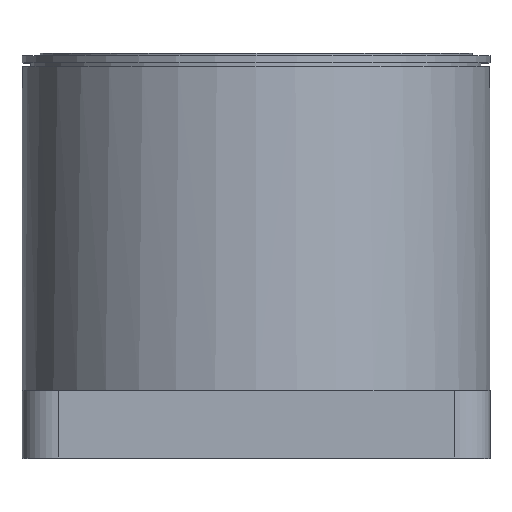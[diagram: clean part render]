
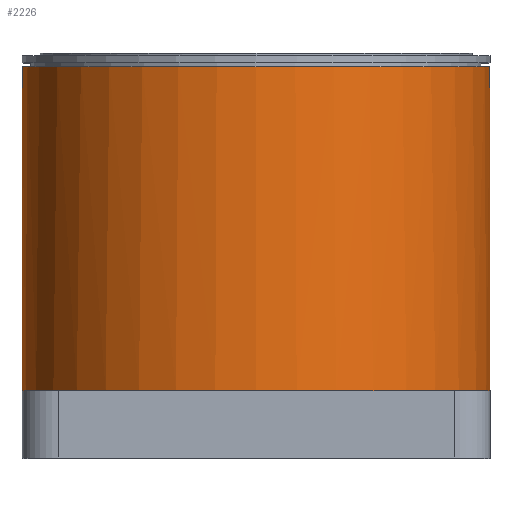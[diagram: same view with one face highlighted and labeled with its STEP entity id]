
A CAD part, top view. The second image highlights one B-rep face of the part: STEP entity #2226.
In plain terms, the highlighted cylindrical face has radius 52 mm (diameter 104 mm), a partial arc.
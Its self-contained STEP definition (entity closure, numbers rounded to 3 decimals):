
#339=FACE_OUTER_BOUND('',#525,.T.);
#525=EDGE_LOOP('',(#1877,#1878,#1879,#1880,#1881,#1882,#1883));
#724=LINE('',#3773,#835);
#734=LINE('',#3817,#845);
#835=VECTOR('',#2944,72.);
#845=VECTOR('',#2996,72.);
#937=CIRCLE('',#2440,52.);
#940=CIRCLE('',#2444,52.);
#942=CIRCLE('',#2452,52.);
#945=CIRCLE('',#2456,52.);
#946=CIRCLE('',#2462,52.);
#1146=VERTEX_POINT('',#3770);
#1147=VERTEX_POINT('',#3772);
#1154=VERTEX_POINT('',#3792);
#1155=VERTEX_POINT('',#3794);
#1158=VERTEX_POINT('',#3801);
#1160=VERTEX_POINT('',#3816);
#1161=VERTEX_POINT('',#3820);
#1393=EDGE_CURVE('',#1146,#1147,#724,.T.);
#1402=EDGE_CURVE('',#1155,#1154,#937,.T.);
#1406=EDGE_CURVE('',#1154,#1158,#940,.T.);
#1413=EDGE_CURVE('',#1155,#1160,#734,.T.);
#1415=EDGE_CURVE('',#1161,#1147,#942,.T.);
#1420=EDGE_CURVE('',#1158,#1161,#945,.T.);
#1425=EDGE_CURVE('',#1160,#1146,#946,.T.);
#1877=ORIENTED_EDGE('',*,*,#1406,.T.);
#1878=ORIENTED_EDGE('',*,*,#1420,.T.);
#1879=ORIENTED_EDGE('',*,*,#1415,.T.);
#1880=ORIENTED_EDGE('',*,*,#1393,.F.);
#1881=ORIENTED_EDGE('',*,*,#1425,.F.);
#1882=ORIENTED_EDGE('',*,*,#1413,.F.);
#1883=ORIENTED_EDGE('',*,*,#1402,.T.);
#2113=CYLINDRICAL_SURFACE('',#2461,52.);
#2226=ADVANCED_FACE('',(#339),#2113,.T.);
#2440=AXIS2_PLACEMENT_3D('',#3795,#2969,#2970);
#2444=AXIS2_PLACEMENT_3D('',#3803,#2978,#2979);
#2452=AXIS2_PLACEMENT_3D('',#3821,#3001,#3002);
#2456=AXIS2_PLACEMENT_3D('',#3830,#3011,#3012);
#2461=AXIS2_PLACEMENT_3D('',#3839,#3025,#3026);
#2462=AXIS2_PLACEMENT_3D('',#3840,#3027,#3028);
#2944=DIRECTION('',(0.,0.,-1.));
#2969=DIRECTION('center_axis',(0.,0.,
1.));
#2970=DIRECTION('ref_axis',(1.,0.,0.));
#2978=DIRECTION('center_axis',(0.,0.,
1.));
#2979=DIRECTION('ref_axis',(1.,0.,0.));
#2996=DIRECTION('',(0.,0.,1.));
#3001=DIRECTION('center_axis',(0.,0.,
1.));
#3002=DIRECTION('ref_axis',(1.,0.,0.));
#3011=DIRECTION('center_axis',(0.,0.,
1.));
#3012=DIRECTION('ref_axis',(1.,0.,0.));
#3025=DIRECTION('center_axis',(0.,0.,1.));
#3026=DIRECTION('ref_axis',(1.,0.,0.));
#3027=DIRECTION('center_axis',(0.,0.,1.));
#3028=DIRECTION('ref_axis',(1.,0.,0.));
#3770=CARTESIAN_POINT('',(42.066,30.569,87.));
#3772=CARTESIAN_POINT('',(42.066,30.569,15.));
#3773=CARTESIAN_POINT('',(42.066,30.569,43.5));
#3792=CARTESIAN_POINT('',(-52.,0.,15.));
#3794=CARTESIAN_POINT('',(-42.066,30.569,15.));
#3795=CARTESIAN_POINT('Origin',(0.,0.,15.));
#3801=CARTESIAN_POINT('',(0.,-52.,15.));
#3803=CARTESIAN_POINT('Origin',(0.,0.,15.));
#3816=CARTESIAN_POINT('',(-42.066,30.569,87.));
#3817=CARTESIAN_POINT('',(-42.066,30.569,43.5));
#3820=CARTESIAN_POINT('',(52.,0.,15.));
#3821=CARTESIAN_POINT('Origin',(0.,0.,15.));
#3830=CARTESIAN_POINT('Origin',(0.,0.,15.));
#3839=CARTESIAN_POINT('Origin',(0.,0.,43.5));
#3840=CARTESIAN_POINT('Origin',(0.,0.,87.));
